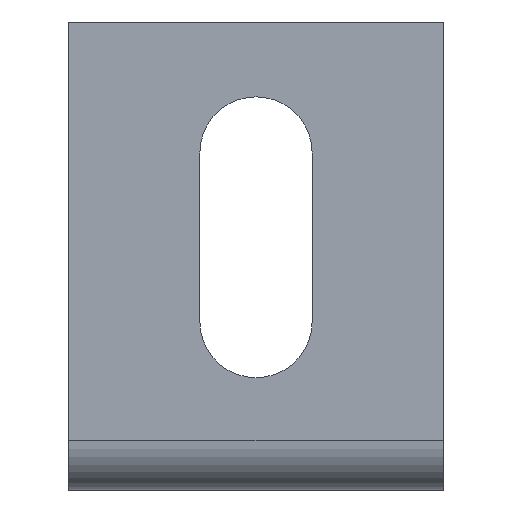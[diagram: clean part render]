
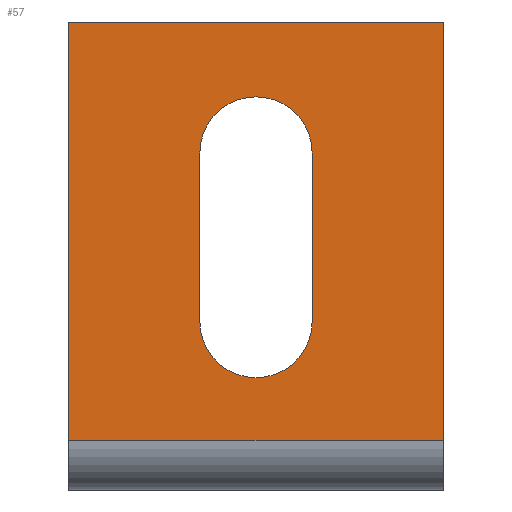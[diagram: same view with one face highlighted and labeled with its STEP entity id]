
A CAD part, front view. The second image highlights one B-rep face of the part: STEP entity #57.
In plain terms, the highlighted planar face has unit normal (0, -1, 0).
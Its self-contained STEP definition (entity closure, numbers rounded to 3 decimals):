
#2 = DIRECTION ( 'NONE',  ( 0., 0., -1. ) ) ;
#3 = EDGE_LOOP ( 'NONE', ( #81, #215, #220, #589 ) ) ;
#6 = DIRECTION ( 'NONE',  ( 0., 0., -1. ) ) ;
#33 = VERTEX_POINT ( 'NONE', #526 ) ;
#39 = EDGE_CURVE ( 'NONE', #506, #33, #480, .T. ) ;
#45 = CARTESIAN_POINT ( 'NONE',  ( 21., 0., 27. ) ) ;
#52 = VERTEX_POINT ( 'NONE', #139 ) ;
#53 = AXIS2_PLACEMENT_3D ( 'NONE', #349, #306, #341 ) ;
#57 = ADVANCED_FACE ( 'NONE', ( #599, #423 ), #329, .F. ) ;
#62 = EDGE_CURVE ( 'NONE', #452, #136, #184, .T. ) ;
#77 = LINE ( 'NONE', #151, #431 ) ;
#81 = ORIENTED_EDGE ( 'NONE', *, *, #481, .T. ) ;
#113 = DIRECTION ( 'NONE',  ( 1., 0., 0. ) ) ;
#118 = DIRECTION ( 'NONE',  ( 0., 1., 0. ) ) ;
#122 = DIRECTION ( 'NONE',  ( 0., 0., 1. ) ) ;
#136 = VERTEX_POINT ( 'NONE', #489 ) ;
#137 = EDGE_CURVE ( 'NONE', #213, #323, #145, .T. ) ;
#139 = CARTESIAN_POINT ( 'NONE',  ( 0., 0., 75. ) ) ;
#145 = LINE ( 'NONE', #391, #545 ) ;
#146 = CIRCLE ( 'NONE', #413, 9. ) ;
#148 = CARTESIAN_POINT ( 'NONE',  ( 0., 0., 6. ) ) ;
#151 = CARTESIAN_POINT ( 'NONE',  ( 0., 0., 75. ) ) ;
#184 = LINE ( 'NONE', #573, #325 ) ;
#189 = CARTESIAN_POINT ( 'NONE',  ( 0., 0., 6. ) ) ;
#204 = VECTOR ( 'NONE', #2, 1000. ) ;
#206 = CARTESIAN_POINT ( 'NONE',  ( 0., 0., 8. ) ) ;
#213 = VERTEX_POINT ( 'NONE', #502 ) ;
#215 = ORIENTED_EDGE ( 'NONE', *, *, #234, .T. ) ;
#220 = ORIENTED_EDGE ( 'NONE', *, *, #137, .F. ) ;
#221 = CARTESIAN_POINT ( 'NONE',  ( 30., 0., 63. ) ) ;
#226 = LINE ( 'NONE', #148, #462 ) ;
#234 = EDGE_CURVE ( 'NONE', #442, #323, #405, .T. ) ;
#248 = DIRECTION ( 'NONE',  ( 0., 0., 1. ) ) ;
#257 = EDGE_CURVE ( 'NONE', #465, #506, #268, .T. ) ;
#268 = CIRCLE ( 'NONE', #571, 9. ) ;
#293 = DIRECTION ( 'NONE',  ( 0., 1., 0. ) ) ;
#306 = DIRECTION ( 'NONE',  ( 0., 1., 0. ) ) ;
#318 = ORIENTED_EDGE ( 'NONE', *, *, #257, .T. ) ;
#321 = EDGE_CURVE ( 'NONE', #52, #213, #77, .T. ) ;
#323 = VERTEX_POINT ( 'NONE', #444 ) ;
#325 = VECTOR ( 'NONE', #421, 1000. ) ;
#329 = PLANE ( 'NONE',  #387 ) ;
#331 = EDGE_CURVE ( 'NONE', #136, #465, #146, .T. ) ;
#341 = DIRECTION ( 'NONE',  ( 0., 0., 1. ) ) ;
#349 = CARTESIAN_POINT ( 'NONE',  ( 30., 0., 27. ) ) ;
#364 = CIRCLE ( 'NONE', #53, 9. ) ;
#373 = EDGE_CURVE ( 'NONE', #33, #452, #364, .T. ) ;
#378 = CARTESIAN_POINT ( 'NONE',  ( 39., 0., 6. ) ) ;
#382 = ORIENTED_EDGE ( 'NONE', *, *, #331, .T. ) ;
#387 = AXIS2_PLACEMENT_3D ( 'NONE', #189, #474, #467 ) ;
#391 = CARTESIAN_POINT ( 'NONE',  ( 60., 0., 6. ) ) ;
#405 = LINE ( 'NONE', #505, #412 ) ;
#407 = DIRECTION ( 'NONE',  ( 1., 0., 0. ) ) ;
#412 = VECTOR ( 'NONE', #407, 1000. ) ;
#413 = AXIS2_PLACEMENT_3D ( 'NONE', #579, #293, #248 ) ;
#421 = DIRECTION ( 'NONE',  ( 0., 0., 1. ) ) ;
#423 = FACE_OUTER_BOUND ( 'NONE', #3, .T. ) ;
#431 = VECTOR ( 'NONE', #113, 1000. ) ;
#438 = ORIENTED_EDGE ( 'NONE', *, *, #373, .T. ) ;
#442 = VERTEX_POINT ( 'NONE', #206 ) ;
#444 = CARTESIAN_POINT ( 'NONE',  ( 60., 0., 8. ) ) ;
#446 = ORIENTED_EDGE ( 'NONE', *, *, #39, .T. ) ;
#452 = VERTEX_POINT ( 'NONE', #45 ) ;
#462 = VECTOR ( 'NONE', #485, 1000. ) ;
#465 = VERTEX_POINT ( 'NONE', #221 ) ;
#467 = DIRECTION ( 'NONE',  ( 0., 0., 1. ) ) ;
#474 = DIRECTION ( 'NONE',  ( 0., 1., 0. ) ) ;
#480 = LINE ( 'NONE', #378, #204 ) ;
#481 = EDGE_CURVE ( 'NONE', #52, #442, #226, .T. ) ;
#485 = DIRECTION ( 'NONE',  ( 0., 0., -1. ) ) ;
#489 = CARTESIAN_POINT ( 'NONE',  ( 21., 0., 54. ) ) ;
#502 = CARTESIAN_POINT ( 'NONE',  ( 60., 0., 75. ) ) ;
#505 = CARTESIAN_POINT ( 'NONE',  ( 60., 0., 8. ) ) ;
#506 = VERTEX_POINT ( 'NONE', #588 ) ;
#512 = ORIENTED_EDGE ( 'NONE', *, *, #62, .T. ) ;
#526 = CARTESIAN_POINT ( 'NONE',  ( 39., 0., 27. ) ) ;
#545 = VECTOR ( 'NONE', #6, 1000. ) ;
#549 = CARTESIAN_POINT ( 'NONE',  ( 30., 0., 54. ) ) ;
#571 = AXIS2_PLACEMENT_3D ( 'NONE', #549, #118, #122 ) ;
#573 = CARTESIAN_POINT ( 'NONE',  ( 21., 0., 6. ) ) ;
#579 = CARTESIAN_POINT ( 'NONE',  ( 30., 0., 54. ) ) ;
#588 = CARTESIAN_POINT ( 'NONE',  ( 39., 0., 54. ) ) ;
#589 = ORIENTED_EDGE ( 'NONE', *, *, #321, .F. ) ;
#599 = FACE_BOUND ( 'NONE', #620, .T. ) ;
#620 = EDGE_LOOP ( 'NONE', ( #438, #512, #382, #318, #446 ) ) ;
